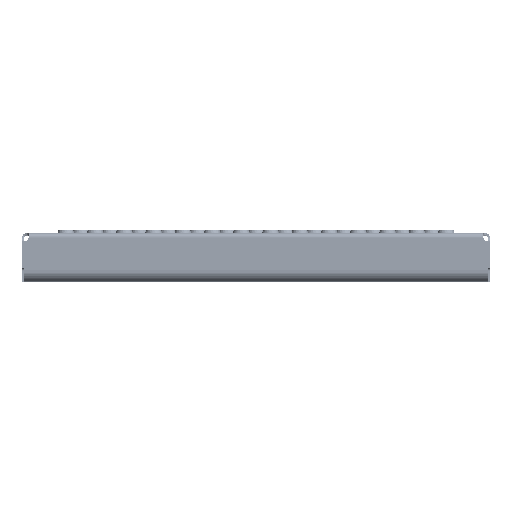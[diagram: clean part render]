
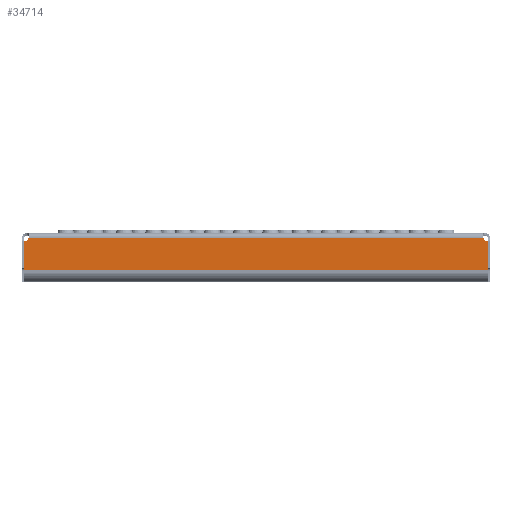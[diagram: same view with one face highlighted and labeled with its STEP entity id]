
A CAD part, top view. The second image highlights one B-rep face of the part: STEP entity #34714.
In plain terms, the highlighted planar face has unit normal (0, 0, 1).
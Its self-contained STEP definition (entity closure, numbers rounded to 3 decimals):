
#1747 = VERTEX_POINT ( 'NONE', #57811 ) ;
#2757 = LINE ( 'NONE', #79204, #80042 ) ;
#9423 = FACE_OUTER_BOUND ( 'NONE', #72417, .T. ) ;
#10506 = AXIS2_PLACEMENT_3D ( 'NONE', #23706, #53914, #45050 ) ;
#10558 = CARTESIAN_POINT ( 'NONE',  ( -197.99, -7.185, 75. ) ) ;
#11896 = CARTESIAN_POINT ( 'NONE',  ( 197.99, -7.185, 75. ) ) ;
#12907 = EDGE_CURVE ( 'NONE', #42850, #1747, #71980, .T. ) ;
#14077 = CARTESIAN_POINT ( 'NONE',  ( 197.99, -7.185, 75. ) ) ;
#18871 = DIRECTION ( 'NONE',  ( 0., 0., -1. ) ) ;
#19555 = CIRCLE ( 'NONE', #60581, 5. ) ;
#22178 = EDGE_CURVE ( 'NONE', #1747, #67032, #63863, .T. ) ;
#23706 = CARTESIAN_POINT ( 'NONE',  ( -199., -2.288, 75. ) ) ;
#25137 = AXIS2_PLACEMENT_3D ( 'NONE', #84930, #39027, #69204 ) ;
#25671 = PLANE ( 'NONE',  #25137 ) ;
#30021 = VERTEX_POINT ( 'NONE', #11896 ) ;
#30271 = ORIENTED_EDGE ( 'NONE', *, *, #22178, .T. ) ;
#34714 = ADVANCED_FACE ( 'NONE', ( #9423 ), #25671, .T. ) ;
#39027 = DIRECTION ( 'NONE',  ( 0., 0., 1. ) ) ;
#39096 = ORIENTED_EDGE ( 'NONE', *, *, #89193, .T. ) ;
#42850 = VERTEX_POINT ( 'NONE', #73990 ) ;
#43434 = DIRECTION ( 'NONE',  ( 1., 0., 0. ) ) ;
#44235 = DIRECTION ( 'NONE',  ( 0., 1., 0. ) ) ;
#44681 = VECTOR ( 'NONE', #43434, 1000. ) ;
#44890 = LINE ( 'NONE', #73546, #44681 ) ;
#45050 = DIRECTION ( 'NONE',  ( 0., -1., 0. ) ) ;
#45116 = VERTEX_POINT ( 'NONE', #81846 ) ;
#46460 = CARTESIAN_POINT ( 'NONE',  ( 197.99, -31.998, 75. ) ) ;
#47730 = DIRECTION ( 'NONE',  ( 1., 0., 0. ) ) ;
#51668 = LINE ( 'NONE', #14077, #71554 ) ;
#53914 = DIRECTION ( 'NONE',  ( 0., 0., -1. ) ) ;
#55967 = DIRECTION ( 'NONE',  ( 0., -1., 0. ) ) ;
#57811 = CARTESIAN_POINT ( 'NONE',  ( -197.99, -7.185, 75. ) ) ;
#59617 = VERTEX_POINT ( 'NONE', #46460 ) ;
#60581 = AXIS2_PLACEMENT_3D ( 'NONE', #92507, #18871, #71760 ) ;
#61480 = VECTOR ( 'NONE', #55967, 1000. ) ;
#63863 = LINE ( 'NONE', #10558, #61480 ) ;
#66963 = CARTESIAN_POINT ( 'NONE',  ( -197.99, -31.998, 75. ) ) ;
#67032 = VERTEX_POINT ( 'NONE', #66963 ) ;
#69204 = DIRECTION ( 'NONE',  ( 0., -1., 0. ) ) ;
#70985 = EDGE_CURVE ( 'NONE', #59617, #30021, #51668, .T. ) ;
#71554 = VECTOR ( 'NONE', #44235, 1000. ) ;
#71760 = DIRECTION ( 'NONE',  ( 0., -1., 0. ) ) ;
#71980 = CIRCLE ( 'NONE', #10506, 5. ) ;
#72417 = EDGE_LOOP ( 'NONE', ( #39096, #72516, #83321, #87912, #83507, #30271 ) ) ;
#72516 = ORIENTED_EDGE ( 'NONE', *, *, #70985, .T. ) ;
#73546 = CARTESIAN_POINT ( 'NONE',  ( -199., -4., 75. ) ) ;
#73990 = CARTESIAN_POINT ( 'NONE',  ( -194.302, -4., 75. ) ) ;
#78340 = EDGE_CURVE ( 'NONE', #42850, #45116, #44890, .T. ) ;
#79204 = CARTESIAN_POINT ( 'NONE',  ( -197.99, -31.998, 75. ) ) ;
#80042 = VECTOR ( 'NONE', #47730, 1000. ) ;
#81846 = CARTESIAN_POINT ( 'NONE',  ( 194.302, -4., 75. ) ) ;
#83321 = ORIENTED_EDGE ( 'NONE', *, *, #97622, .T. ) ;
#83507 = ORIENTED_EDGE ( 'NONE', *, *, #12907, .T. ) ;
#84930 = CARTESIAN_POINT ( 'NONE',  ( -199., 145.712, 75. ) ) ;
#87912 = ORIENTED_EDGE ( 'NONE', *, *, #78340, .F. ) ;
#89193 = EDGE_CURVE ( 'NONE', #67032, #59617, #2757, .T. ) ;
#92507 = CARTESIAN_POINT ( 'NONE',  ( 199., -2.288, 75. ) ) ;
#97622 = EDGE_CURVE ( 'NONE', #30021, #45116, #19555, .T. ) ;
